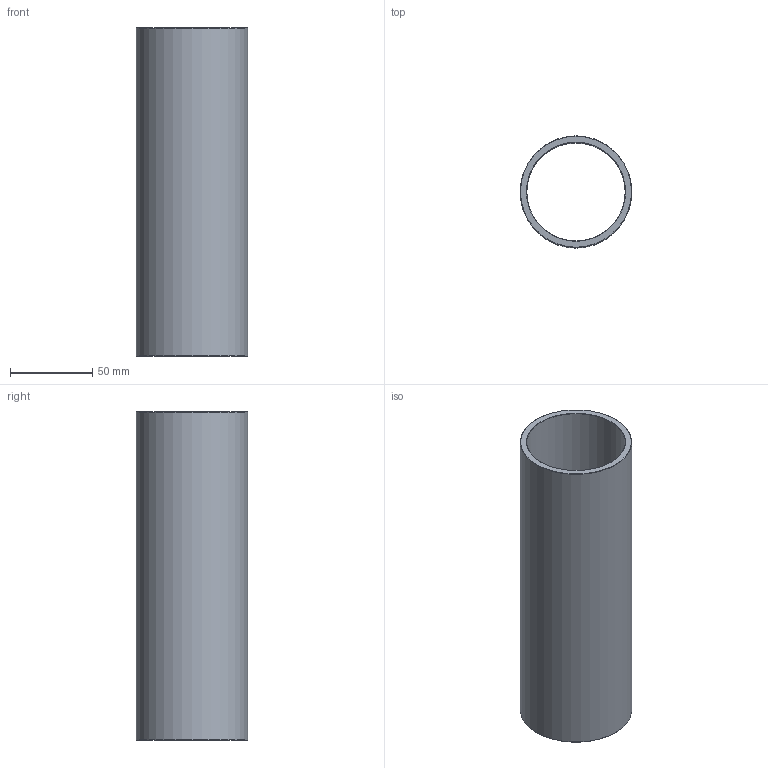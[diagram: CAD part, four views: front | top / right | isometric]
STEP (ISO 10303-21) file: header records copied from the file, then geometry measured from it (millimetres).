
FILE_DESCRIPTION(('STEP AP203'),'1');
FILE_NAME('C:/Users/Rodrigo/Desktop/GA4.060.200-1.step','2016-11-08T12:24:07',(' '),(' '),'Spatial InterOp 3D',' ',' ');
FILE_SCHEMA(('CONFIG_CONTROL_DESIGN'));
Length unit declared in the file: millimetre
Products named in the file (1): 1
Bounding box: 68 x 68 x 200 mm (x, y, z)
Volume: 160833.5 mm3; surface area: 81939 mm2
Topology: 1 solids, 1 shells, 8 faces, 14 edges, 8 vertices
Faces by surface type: cone 4, cylinder 2, plane 2
Full cylindrical faces by diameter (mm): 60 x1, 68 x1
Entity records: 212 total; most frequent: DIRECTION 34, CARTESIAN_POINT 25, AXIS2_PLACEMENT_3D 17, EDGE_LOOP 16, ORIENTED_EDGE 16, FACE_OUTER_BOUND 10, ADVANCED_FACE 8, EDGE_CURVE 8
